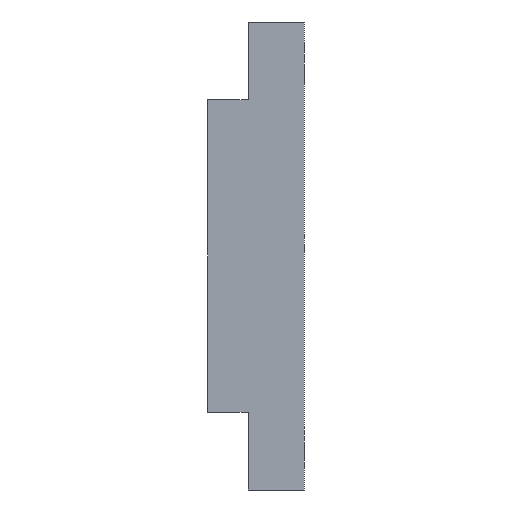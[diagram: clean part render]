
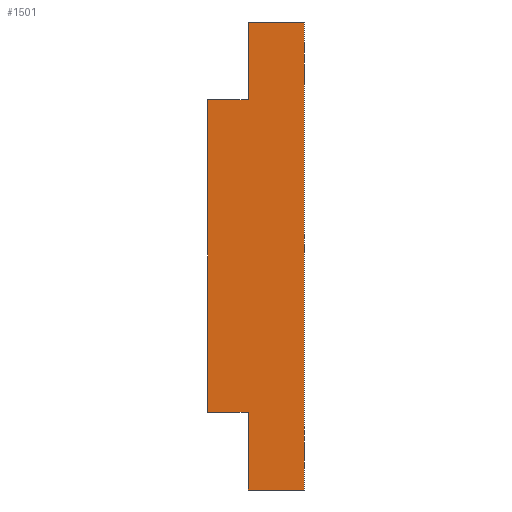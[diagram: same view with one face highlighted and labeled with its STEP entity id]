
A CAD part, left-side view. The second image highlights one B-rep face of the part: STEP entity #1501.
In plain terms, the highlighted planar face has unit normal (-1, 0, 0).
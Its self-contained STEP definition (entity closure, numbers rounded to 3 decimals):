
#15 = CARTESIAN_POINT ( 'NONE',  ( -100., 6., -25. ) ) ;
#58 = VERTEX_POINT ( 'NONE', #823 ) ;
#83 = EDGE_CURVE ( 'NONE', #1657, #58, #2317, .T. ) ;
#157 = VECTOR ( 'NONE', #239, 1000. ) ;
#184 = DIRECTION ( 'NONE',  ( 0., 0., -1. ) ) ;
#225 = CARTESIAN_POINT ( 'NONE',  ( -100., 6., 25. ) ) ;
#239 = DIRECTION ( 'NONE',  ( 0., 0., 1. ) ) ;
#310 = EDGE_CURVE ( 'NONE', #676, #1162, #2469, .T. ) ;
#467 = ORIENTED_EDGE ( 'NONE', *, *, #1163, .F. ) ;
#469 = ORIENTED_EDGE ( 'NONE', *, *, #310, .T. ) ;
#554 = ORIENTED_EDGE ( 'NONE', *, *, #697, .T. ) ;
#572 = CARTESIAN_POINT ( 'NONE',  ( -100., 10.3, 16.7 ) ) ;
#583 = EDGE_LOOP ( 'NONE', ( #554, #1168, #467, #1824, #2248, #469, #2491, #1105 ) ) ;
#585 = VERTEX_POINT ( 'NONE', #2191 ) ;
#596 = DIRECTION ( 'NONE',  ( 0., -1., 0. ) ) ;
#627 = CARTESIAN_POINT ( 'NONE',  ( -100., 10.3, 16.7 ) ) ;
#632 = CARTESIAN_POINT ( 'NONE',  ( -100., 10.3, -16.7 ) ) ;
#633 = EDGE_CURVE ( 'NONE', #2555, #1383, #743, .T. ) ;
#634 = LINE ( 'NONE', #2025, #157 ) ;
#643 = DIRECTION ( 'NONE',  ( 0., -1., 0. ) ) ;
#653 = CARTESIAN_POINT ( 'NONE',  ( -100., 6., 25. ) ) ;
#676 = VERTEX_POINT ( 'NONE', #632 ) ;
#697 = EDGE_CURVE ( 'NONE', #585, #1383, #634, .T. ) ;
#743 = LINE ( 'NONE', #2381, #2290 ) ;
#778 = DIRECTION ( 'NONE',  ( 1., 0., 0. ) ) ;
#794 = EDGE_CURVE ( 'NONE', #1725, #1162, #1871, .T. ) ;
#810 = CARTESIAN_POINT ( 'NONE',  ( -100., 6., -25. ) ) ;
#823 = CARTESIAN_POINT ( 'NONE',  ( -100., 6., 16.7 ) ) ;
#826 = DIRECTION ( 'NONE',  ( 0., 0., 1. ) ) ;
#991 = VECTOR ( 'NONE', #998, 1000. ) ;
#998 = DIRECTION ( 'NONE',  ( 0., -1., 0. ) ) ;
#1105 = ORIENTED_EDGE ( 'NONE', *, *, #1620, .T. ) ;
#1162 = VERTEX_POINT ( 'NONE', #1435 ) ;
#1163 = EDGE_CURVE ( 'NONE', #58, #2555, #2180, .T. ) ;
#1168 = ORIENTED_EDGE ( 'NONE', *, *, #633, .F. ) ;
#1297 = DIRECTION ( 'NONE',  ( 0., -1., 0. ) ) ;
#1321 = CARTESIAN_POINT ( 'NONE',  ( -100., 10.3, -16.7 ) ) ;
#1358 = LINE ( 'NONE', #572, #1791 ) ;
#1383 = VERTEX_POINT ( 'NONE', #2130 ) ;
#1385 = PLANE ( 'NONE',  #1746 ) ;
#1401 = VECTOR ( 'NONE', #1647, 1000. ) ;
#1430 = VECTOR ( 'NONE', #1863, 1000. ) ;
#1435 = CARTESIAN_POINT ( 'NONE',  ( -100., 6., -16.7 ) ) ;
#1501 = ADVANCED_FACE ( 'NONE', ( #2091 ), #1385, .F. ) ;
#1620 = EDGE_CURVE ( 'NONE', #1725, #585, #2533, .T. ) ;
#1647 = DIRECTION ( 'NONE',  ( 0., 0., 1. ) ) ;
#1657 = VERTEX_POINT ( 'NONE', #2389 ) ;
#1670 = CARTESIAN_POINT ( 'NONE',  ( -100., 6., 25. ) ) ;
#1725 = VERTEX_POINT ( 'NONE', #15 ) ;
#1738 = VECTOR ( 'NONE', #643, 1000. ) ;
#1746 = AXIS2_PLACEMENT_3D ( 'NONE', #1983, #778, #184 ) ;
#1791 = VECTOR ( 'NONE', #826, 1000. ) ;
#1824 = ORIENTED_EDGE ( 'NONE', *, *, #83, .F. ) ;
#1863 = DIRECTION ( 'NONE',  ( 0., 0., 1. ) ) ;
#1871 = LINE ( 'NONE', #1670, #1401 ) ;
#1983 = CARTESIAN_POINT ( 'NONE',  ( -100., 6., 25. ) ) ;
#1988 = VECTOR ( 'NONE', #1297, 1000. ) ;
#2025 = CARTESIAN_POINT ( 'NONE',  ( -100., 0., 25. ) ) ;
#2091 = FACE_OUTER_BOUND ( 'NONE', #583, .T. ) ;
#2130 = CARTESIAN_POINT ( 'NONE',  ( -100., 0., 25. ) ) ;
#2180 = LINE ( 'NONE', #653, #1430 ) ;
#2191 = CARTESIAN_POINT ( 'NONE',  ( -100., 0., -25. ) ) ;
#2248 = ORIENTED_EDGE ( 'NONE', *, *, #2351, .F. ) ;
#2290 = VECTOR ( 'NONE', #596, 1000. ) ;
#2317 = LINE ( 'NONE', #627, #1738 ) ;
#2351 = EDGE_CURVE ( 'NONE', #676, #1657, #1358, .T. ) ;
#2381 = CARTESIAN_POINT ( 'NONE',  ( -100., 6., 25. ) ) ;
#2389 = CARTESIAN_POINT ( 'NONE',  ( -100., 10.3, 16.7 ) ) ;
#2469 = LINE ( 'NONE', #1321, #1988 ) ;
#2491 = ORIENTED_EDGE ( 'NONE', *, *, #794, .F. ) ;
#2533 = LINE ( 'NONE', #810, #991 ) ;
#2555 = VERTEX_POINT ( 'NONE', #225 ) ;
